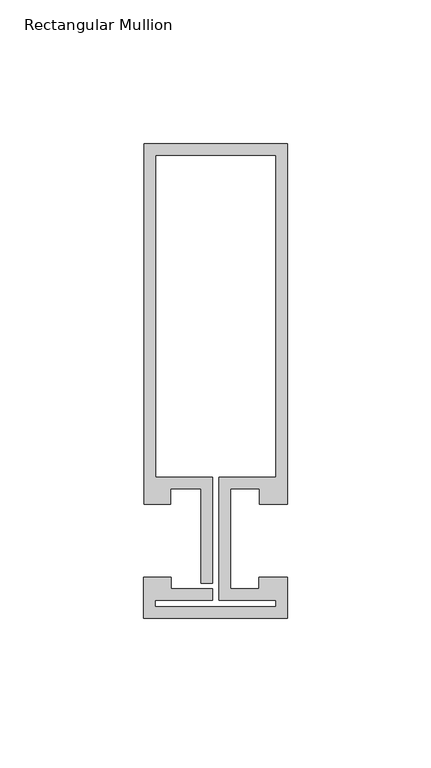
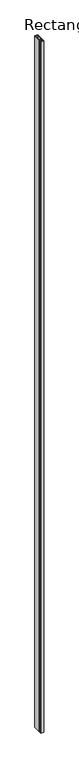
"""IFC4 building model written with IfcOpenShell, lengths in millimetres: member geometry, Rectangular Mullion : Reynaers_CW-50_Transom-Transom_125.5mm_Facecap-02A."""

from ifc_helpers import new_model, si_unit, frame, origin, place, context, project, spatial, polyline, outline, extrude, source, transform, mapped, element, save


def rectangular_mullion_120c3908(model_context):
    return source(origin(), model_context, "Body", "SweptSolid", [
        extrude(outline(polyline([(25.1995941, -12.7331291), (25.1995941, -27.0331291), (-24.994845, -27.0331291), (-24.994845, -12.7331291), (-15.2996495, -12.7331291), (-15.2996495, -16.7331291), (-0.9004059, -16.7331291), (-0.9004059, -20.7331291), (-20.994845, -20.7331291), (-20.994845, -23.0331291), (21.1995941, -23.0331291), (21.1995941, -20.7331291), (1.2995941, -20.7331291), (1.2995941, 22.1331291), (21.1995941, 22.1331291), (21.1995941, 134.2331291), (-20.8004059, 134.2331291), (-20.8004059, 22.1331291), (-0.9004059, 22.1331291), (-0.9004059, -14.7331291), (-4.9004059, -14.7331291), (-4.9004059, 18.1331291), (-15.499, 18.1331291), (-15.499, 12.7331291), (-24.8004059, 12.7331291), (-24.8004059, 138.2331291), (25.1995941, 138.2331291), (25.1995941, 12.7331291), (15.499, 12.7331291), (15.499, 18.1331291), (5.2995941, 18.1331291), (5.2995941, -16.7331291), (15.2996495, -16.7331291), (15.2996495, -12.7331291), (25.1995941, -12.7331291)])), frame((0.0, 0.0, -12000.0), z_axis=(0.0, 0.0, 1.0), x_axis=(1.0, 0.0, 0.0)), (0.0, 0.0, 1.0), 12000.0),
    ])


if __name__ == "__main__":
    model = new_model("IFC4")
    model_context = context("Model", 3, world=origin())
    ifc_project = project(units=[si_unit("LENGTHUNIT", "METRE", prefix="MILLI")], contexts=[model_context])
    site = spatial("IfcSite", under=ifc_project)
    building = spatial("IfcBuilding", under=site)
    placement = place(None, origin())
    rectangular_mullion_shape = rectangular_mullion_120c3908(model_context)
    element("IfcMember", 1, ObjectType="Rectangular Mullion : Reynaers_CW-50_Transom-Transom_125.5mm_Facecap-02A", at=placement, inside=building, context=model_context, shape_type="MappedRepresentation", body=[
        mapped(rectangular_mullion_shape, transform((0.0, 0.0, 0.0), x_axis=(1.0, 0.0, 0.0), y_axis=(0.0, 1.0, 0.0), z_axis=(0.0, 0.0, 1.0))),
    ])
    save(model, "model.ifc")
